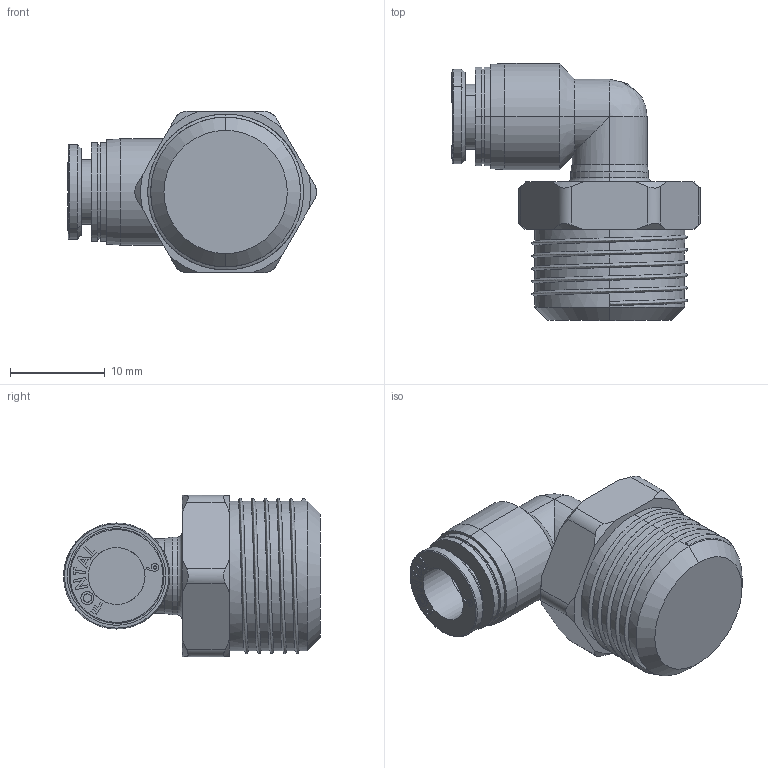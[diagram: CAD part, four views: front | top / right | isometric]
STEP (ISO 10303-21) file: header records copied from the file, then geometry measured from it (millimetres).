
FILE_DESCRIPTION (( 'STEP AP203' ), '1' );
FILE_NAME ('FPL6-03.STEP', '2016-01-14T21:04:56', ( '' ), ( '' ), 'SwSTEP 2.0', 'SolidWorks 2014', '' );
FILE_SCHEMA (( 'CONFIG_CONTROL_DESIGN' ));
Length unit declared in the file: millimetre
Products named in the file (4): FPL6-01-A; FPL6-03-B; FPC6-M5-A; FPL6-03
Assembly tree (3 placements, depth 2):
  FPL6-03
    FPL6-01-A
    FPC6-M5-A
    FPL6-03-B
Bounding box: 26.26 x 27.1 x 17 mm (x, y, z)
Volume: 4324.5 mm3; surface area: 2564.8 mm2
Topology: 3 solids, 3 shells, 169 faces, 423 edges, 276 vertices
Faces by surface type: plane 81, cylinder 43, cone 22, bspline 19, torus 4
Entity records: 8175 total; most frequent: CARTESIAN_POINT 3932, ORIENTED_EDGE 842, DIRECTION 712, EDGE_CURVE 421, VERTEX_POINT 276, AXIS2_PLACEMENT_3D 238, LINE 236, VECTOR 236
